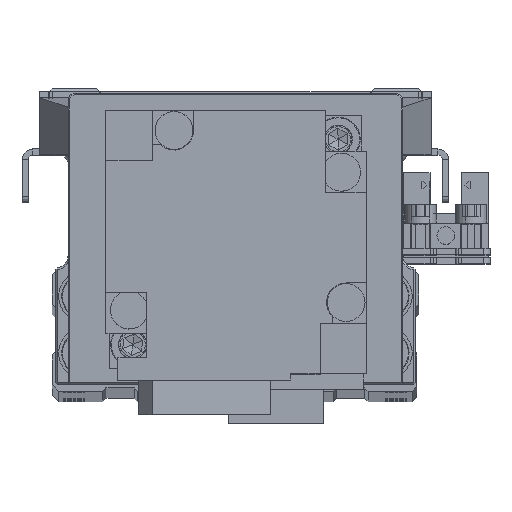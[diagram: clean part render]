
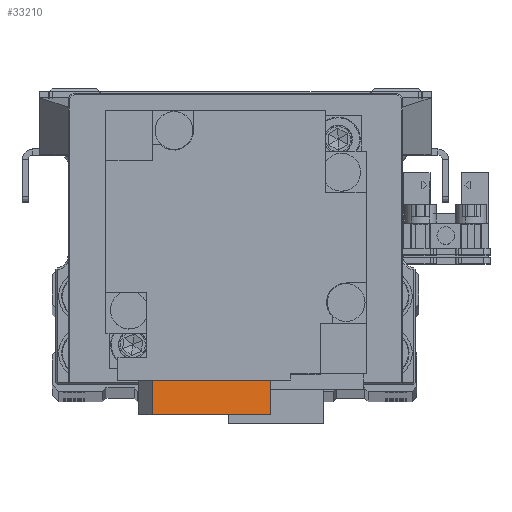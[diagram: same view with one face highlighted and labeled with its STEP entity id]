
A CAD part, top view. The second image highlights one B-rep face of the part: STEP entity #33210.
In plain terms, the highlighted planar face has unit normal (0.156, 0, 0.988) as drawn and (-0.156, 0, -0.988) by its records, which use the part's own axes.
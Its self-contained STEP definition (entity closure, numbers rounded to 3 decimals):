
#165 = CARTESIAN_POINT ( 'NONE',  ( 3.8, -24.75, -77.61 ) ) ;
#1484 = DIRECTION ( 'NONE',  ( 0.988, 0., -0.156 ) ) ;
#2795 = CARTESIAN_POINT ( 'NONE',  ( 13.183, -24.75, -79.096 ) ) ;
#5598 = VERTEX_POINT ( 'NONE', #36080 ) ;
#8617 = ORIENTED_EDGE ( 'NONE', *, *, #34141, .T. ) ;
#8833 = VECTOR ( 'NONE', #9692, 1000. ) ;
#8851 = ORIENTED_EDGE ( 'NONE', *, *, #33171, .F. ) ;
#9692 = DIRECTION ( 'NONE',  ( 0., -1., 0. ) ) ;
#11674 = LINE ( 'NONE', #24615, #36375 ) ;
#12151 = ORIENTED_EDGE ( 'NONE', *, *, #37161, .F. ) ;
#13084 = DIRECTION ( 'NONE',  ( 0.156, 0., 0.988 ) ) ;
#13773 = CARTESIAN_POINT ( 'NONE',  ( 13.183, -27.5, -79.096 ) ) ;
#14242 = AXIS2_PLACEMENT_3D ( 'NONE', #165, #13084, #26030 ) ;
#14727 = CARTESIAN_POINT ( 'NONE',  ( 13.183, -22., -79.096 ) ) ;
#15731 = DIRECTION ( 'NONE',  ( 0., 1., 0. ) ) ;
#16278 = FACE_OUTER_BOUND ( 'NONE', #33300, .T. ) ;
#16590 = VERTEX_POINT ( 'NONE', #31769 ) ;
#16966 = ORIENTED_EDGE ( 'NONE', *, *, #24677, .F. ) ;
#17596 = LINE ( 'NONE', #30581, #28575 ) ;
#21601 = VERTEX_POINT ( 'NONE', #14727 ) ;
#24615 = CARTESIAN_POINT ( 'NONE',  ( 3.8, -27.5, -77.61 ) ) ;
#24677 = EDGE_CURVE ( 'NONE', #32827, #21601, #31896, .T. ) ;
#25839 = LINE ( 'NONE', #38846, #8833 ) ;
#26030 = DIRECTION ( 'NONE',  ( 0.988, 0., -0.156 ) ) ;
#28575 = VECTOR ( 'NONE', #1484, 1000. ) ;
#29257 = PLANE ( 'NONE',  #14242 ) ;
#29548 = VECTOR ( 'NONE', #15731, 1000. ) ;
#30581 = CARTESIAN_POINT ( 'NONE',  ( -5.583, -22., -76.124 ) ) ;
#31769 = CARTESIAN_POINT ( 'NONE',  ( -5.583, -22., -76.124 ) ) ;
#31896 = LINE ( 'NONE', #2795, #29548 ) ;
#32827 = VERTEX_POINT ( 'NONE', #13773 ) ;
#33171 = EDGE_CURVE ( 'NONE', #16590, #5598, #25839, .T. ) ;
#33210 = ADVANCED_FACE ( 'NONE', ( #16278 ), #29257, .F. ) ;
#33300 = EDGE_LOOP ( 'NONE', ( #16966, #12151, #8851, #8617 ) ) ;
#34141 = EDGE_CURVE ( 'NONE', #16590, #21601, #17596, .T. ) ;
#36080 = CARTESIAN_POINT ( 'NONE',  ( -5.583, -27.5, -76.124 ) ) ;
#36375 = VECTOR ( 'NONE', #37632, 1000. ) ;
#37161 = EDGE_CURVE ( 'NONE', #5598, #32827, #11674, .T. ) ;
#37632 = DIRECTION ( 'NONE',  ( 0.988, 0., -0.156 ) ) ;
#38846 = CARTESIAN_POINT ( 'NONE',  ( -5.583, -24.75, -76.124 ) ) ;
